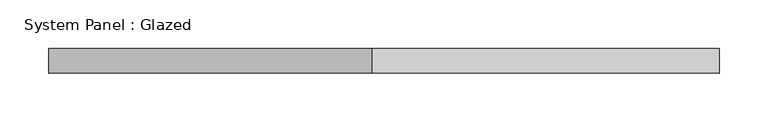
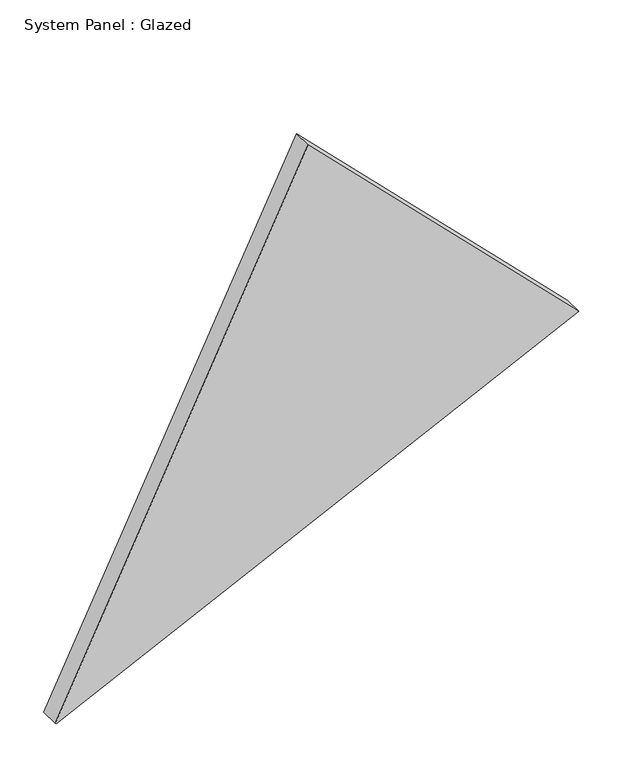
"""IFC4 building model written with IfcOpenShell, lengths in millimetres: plate geometry, System Panel : Glazed."""

from ifc_helpers import new_model, si_unit, frame, origin, place, context, project, spatial, polyline, outline, extrude, source, transform, mapped, element, save


def system_panel_glazed_b874945b(model_context):
    return source(origin(), model_context, "Body", "SweptSolid", [
        extrude(outline(polyline([(1.1855973, -344.0218521), (0.0, -342.8367828), (331.8958307, 344.0218521), (687.8963433, -11.8201392), (1.1855973, -344.0218521)])), frame((0.0, -44.45, 0.0), z_axis=(0.0, 1.0, 0.0), x_axis=(0.0, 0.0, 1.0)), (0.0, 0.0, 1.0), 25.4),
    ])


if __name__ == "__main__":
    model = new_model("IFC4")
    model_context = context("Model", 3, world=origin())
    ifc_project = project(units=[si_unit("LENGTHUNIT", "METRE", prefix="MILLI")], contexts=[model_context])
    site = spatial("IfcSite", under=ifc_project)
    building = spatial("IfcBuilding", under=site)
    placement = place(None, origin())
    system_panel_glazed_shape = system_panel_glazed_b874945b(model_context)
    element("IfcPlate", 1, ObjectType="System Panel : Glazed", at=placement, inside=building, context=model_context, shape_type="MappedRepresentation", body=[
        mapped(system_panel_glazed_shape, transform((0.0, 0.0, 0.0), x_axis=(1.0, 0.0, 0.0), y_axis=(0.0, 1.0, 0.0), z_axis=(0.0, 0.0, 1.0))),
    ])
    save(model, "model.ifc")
